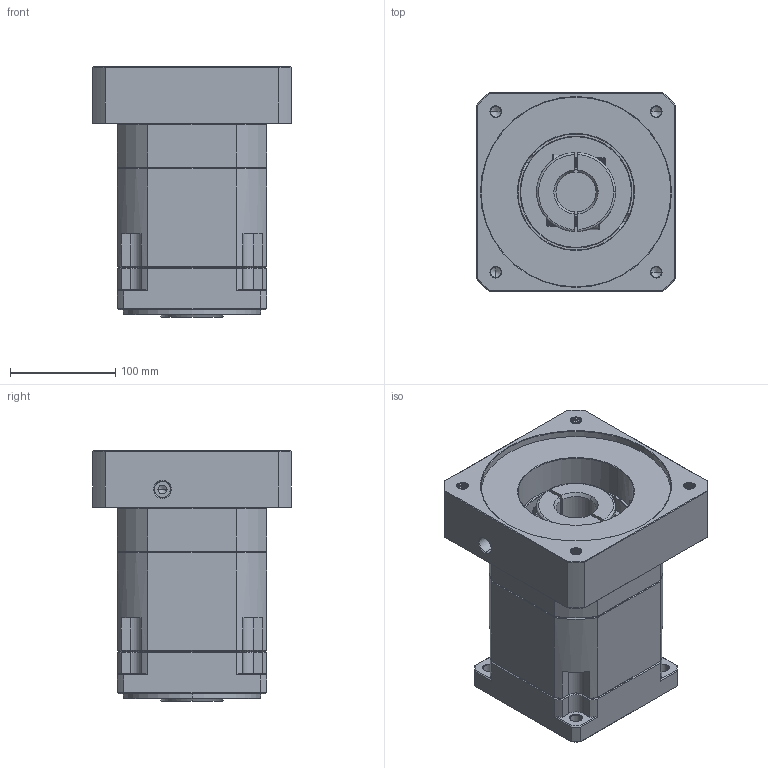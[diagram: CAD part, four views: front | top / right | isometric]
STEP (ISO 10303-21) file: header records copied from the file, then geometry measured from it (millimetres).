
FILE_DESCRIPTION (( 'STEP AP214' ), '1' );
FILE_NAME ('ZB142A-K35-L2-P2-38-180-215-M12.step', '2023-09-01T11:47:51', ( '' ), ( '' ), 'SwSTEP 2.0', 'SolidWorks 2016', '' );
FILE_SCHEMA (( 'AUTOMOTIVE_DESIGN' ));
Length unit declared in the file: millimetre
Products named in the file (1): ZB142A-K35-L2-P2-38-180-215-M12
Bounding box: 188 x 188 x 237.2 mm (x, y, z)
Volume: 4583347.4 mm3; surface area: 346356.6 mm2
Topology: 6 solids, 6 shells, 2243 faces, 6026 edges, 3886 vertices
Faces by surface type: plane 1096, bspline 404, cylinder 377, cone 346, torus 20
Entity records: 123072 total; most frequent: CARTESIAN_POINT 45181, ORIENTED_EDGE 11996, DIRECTION 9567, EDGE_CURVE 5998, VERTEX_POINT 3886, LINE 3829, VECTOR 3829, AXIS2_PLACEMENT_3D 2869
